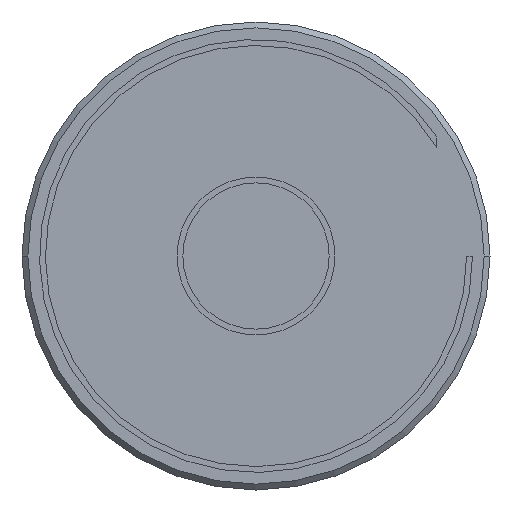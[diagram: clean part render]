
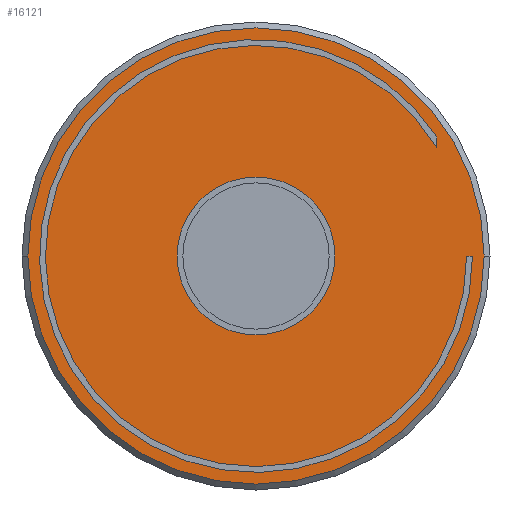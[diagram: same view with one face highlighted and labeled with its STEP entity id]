
A CAD part, left-side view. The second image highlights one B-rep face of the part: STEP entity #16121.
In plain terms, the highlighted planar face has unit normal (-1, 0, 0).
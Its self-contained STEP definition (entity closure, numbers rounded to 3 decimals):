
#15=CARTESIAN_POINT('',(0.,0.,
0.));
#16=DIRECTION('',(-1.,0.,0.));
#17=DIRECTION('',(0.,-1.,0.));
#18=AXIS2_PLACEMENT_3D('',#15,#16,#17);
#24=CARTESIAN_POINT('',(0.,0.,
0.));
#25=DIRECTION('',(-1.,0.,0.));
#26=DIRECTION('',(0.,1.,0.));
#27=AXIS2_PLACEMENT_3D('',#24,#25,#26);
#48=CARTESIAN_POINT('',(0.,0.,0.));
#49=DIRECTION('',(-1.,0.,0.));
#50=DIRECTION('',(0.,0.,-1.));
#51=AXIS2_PLACEMENT_3D('',#48,#49,#50);
#56=CARTESIAN_POINT('',(0.,0.,0.));
#57=DIRECTION('',(-1.,0.,0.));
#58=DIRECTION('',(0.,0.,1.));
#59=AXIS2_PLACEMENT_3D('',#56,#57,#58);
#14313=DIRECTION('',(0.,1.,0.));
#14314=VECTOR('',#14313,0.5);
#14315=CARTESIAN_POINT('',(0.,-18.5,0.));
#14316=LINE('',#14315,#14314);
#14335=CARTESIAN_POINT('',(0.,0.,0.));
#14336=DIRECTION('',(-1.,0.,0.));
#14337=DIRECTION('',(0.,-0.858,0.513));
#14338=AXIS2_PLACEMENT_3D('',#14335,#14336,#14337);
#14350=DIRECTION('',(0.,0.,1.));
#14351=VECTOR('',#14350,0.94);
#14352=CARTESIAN_POINT('',(0.,-15.45,9.236));
#14353=LINE('',#14352,#14351);
#14357=CARTESIAN_POINT('',(0.,0.,0.));
#14358=DIRECTION('',(1.,0.,0.));
#14359=DIRECTION('',(0.,-1.,0.));
#14360=AXIS2_PLACEMENT_3D('',#14357,#14358,#14359);
#14419=CARTESIAN_POINT('',(0.,-19.5,0.));
#14420=CARTESIAN_POINT('',(0.,19.5,0.));
#14421=VERTEX_POINT('',#14419);
#14422=VERTEX_POINT('',#14420);
#14439=CARTESIAN_POINT('',(0.,0.,-6.75));
#14440=CARTESIAN_POINT('',(0.,0.,6.75));
#14441=VERTEX_POINT('',#14439);
#14442=VERTEX_POINT('',#14440);
#16086=CARTESIAN_POINT('',(0.,-18.5,0.));
#16087=VERTEX_POINT('',#16086);
#16088=CARTESIAN_POINT('',(0.,-15.45,10.176));
#16089=VERTEX_POINT('',#16088);
#16090=CARTESIAN_POINT('',(0.,-18.,0.));
#16091=VERTEX_POINT('',#16090);
#16092=CARTESIAN_POINT('',(0.,-15.45,9.236));
#16093=VERTEX_POINT('',#16092);
#16094=CARTESIAN_POINT('',(0.,0.,0.));
#16095=DIRECTION('',(1.,0.,0.));
#16096=DIRECTION('',(0.,-1.,0.));
#16097=AXIS2_PLACEMENT_3D('',#16094,#16095,#16096);
#16098=PLANE('',#16097);
#16100=ORIENTED_EDGE('',*,*,#16099,.F.);
#16102=ORIENTED_EDGE('',*,*,#16101,.F.);
#16103=EDGE_LOOP('',(#16100,#16102));
#16104=FACE_OUTER_BOUND('',#16103,.F.);
#16106=ORIENTED_EDGE('',*,*,#16105,.T.);
#16108=ORIENTED_EDGE('',*,*,#16107,.T.);
#16109=EDGE_LOOP('',(#16106,#16108));
#16110=FACE_BOUND('',#16109,.F.);
#16112=ORIENTED_EDGE('',*,*,#16111,.F.);
#16114=ORIENTED_EDGE('',*,*,#16113,.T.);
#16116=ORIENTED_EDGE('',*,*,#16115,.F.);
#16118=ORIENTED_EDGE('',*,*,#16117,.T.);
#16119=EDGE_LOOP('',(#16112,#16114,#16116,#16118));
#16120=FACE_BOUND('',#16119,.F.);
#16121=ADVANCED_FACE('',(#16104,#16110,#16120),#16098,.F.);
#19=CIRCLE('',#18,19.5);
#28=CIRCLE('',#27,19.5);
#52=CIRCLE('',#51,6.75);
#60=CIRCLE('',#59,6.75);
#14339=CIRCLE('',#14338,18.);
#14361=CIRCLE('',#14360,18.5);
#16099=EDGE_CURVE('',#14421,#14422,#19,.T.);
#16101=EDGE_CURVE('',#14422,#14421,#28,.T.);
#16105=EDGE_CURVE('',#14441,#14442,#52,.T.);
#16107=EDGE_CURVE('',#14442,#14441,#60,.T.);
#16111=EDGE_CURVE('',#16087,#16089,#14361,.T.);
#16113=EDGE_CURVE('',#16087,#16091,#14316,.T.);
#16115=EDGE_CURVE('',#16093,#16091,#14339,.T.);
#16117=EDGE_CURVE('',#16093,#16089,#14353,.T.);
